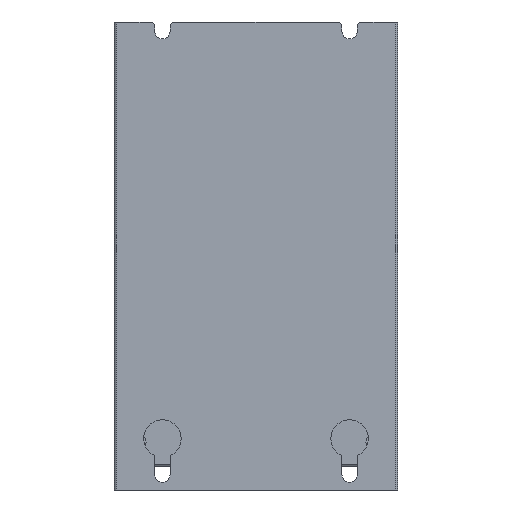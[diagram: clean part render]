
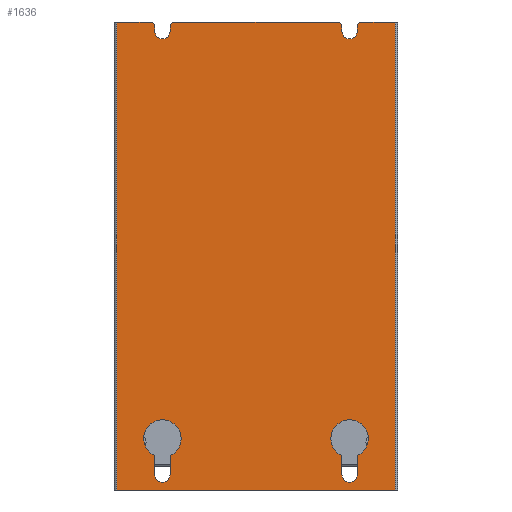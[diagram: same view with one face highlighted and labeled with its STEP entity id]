
A CAD part, front view. The second image highlights one B-rep face of the part: STEP entity #1636.
In plain terms, the highlighted planar face has unit normal (0, -1, 0) as drawn and (0, 0, 1) by its records, which use the part's own axes.
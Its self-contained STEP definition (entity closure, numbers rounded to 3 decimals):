
#35=DIRECTION('',(-1.,0.,0.));
#36=VECTOR('',#35,2.);
#37=CARTESIAN_POINT('',(-96.,-43.25,0.));
#38=LINE('',#37,#36);
#42=CARTESIAN_POINT('',(-96.,-40.,0.));
#43=DIRECTION('',(0.,0.,-1.));
#44=DIRECTION('',(0.,1.,0.));
#45=AXIS2_PLACEMENT_3D('',#42,#43,#44);
#50=DIRECTION('',(1.,0.,0.));
#51=VECTOR('',#50,2.);
#52=CARTESIAN_POINT('',(-98.,-36.75,0.));
#53=LINE('',#52,#51);
#57=CARTESIAN_POINT('',(-98.,-34.75,0.));
#58=DIRECTION('',(0.,0.,-1.));
#59=DIRECTION('',(0.,-1.,0.));
#60=AXIS2_PLACEMENT_3D('',#57,#58,#59);
#65=DIRECTION('',(0.,1.,0.));
#66=VECTOR('',#65,69.5);
#67=CARTESIAN_POINT('',(-100.,-34.75,0.));
#68=LINE('',#67,#66);
#72=CARTESIAN_POINT('',(-98.,34.75,0.));
#73=DIRECTION('',(0.,0.,-1.));
#74=DIRECTION('',(-1.,0.,0.));
#75=AXIS2_PLACEMENT_3D('',#72,#73,#74);
#80=DIRECTION('',(-1.,0.,0.));
#81=VECTOR('',#80,2.);
#82=CARTESIAN_POINT('',(-96.,36.75,0.));
#83=LINE('',#82,#81);
#87=CARTESIAN_POINT('',(-96.,40.,0.));
#88=DIRECTION('',(0.,0.,-1.));
#89=DIRECTION('',(0.,1.,0.));
#90=AXIS2_PLACEMENT_3D('',#87,#88,#89);
#95=DIRECTION('',(1.,0.,0.));
#96=VECTOR('',#95,2.);
#97=CARTESIAN_POINT('',(-98.,43.25,0.));
#98=LINE('',#97,#96);
#102=CARTESIAN_POINT('',(-98.,45.25,0.));
#103=DIRECTION('',(0.,0.,-1.));
#104=DIRECTION('',(0.,-1.,0.));
#105=AXIS2_PLACEMENT_3D('',#102,#103,#104);
#110=DIRECTION('',(0.,1.,0.));
#111=VECTOR('',#110,14.25);
#112=CARTESIAN_POINT('',(-100.,45.25,0.));
#113=LINE('',#112,#111);
#117=DIRECTION('',(0.,1.,0.));
#118=VECTOR('',#117,14.25);
#119=CARTESIAN_POINT('',(-100.,-59.5,0.));
#120=LINE('',#119,#118);
#124=CARTESIAN_POINT('',(-98.,-45.25,0.));
#125=DIRECTION('',(0.,0.,-1.));
#126=DIRECTION('',(-1.,0.,0.));
#127=AXIS2_PLACEMENT_3D('',#124,#125,#126);
#132=CARTESIAN_POINT('',(78.,-40.,0.));
#133=DIRECTION('',(0.,0.,-1.));
#134=DIRECTION('',(0.914,-0.406,0.));
#135=AXIS2_PLACEMENT_3D('',#132,#133,#134);
#140=DIRECTION('',(-1.,0.,0.));
#141=VECTOR('',#140,8.14);
#142=CARTESIAN_POINT('',(93.45,-43.25,0.));
#143=LINE('',#142,#141);
#147=CARTESIAN_POINT('',(93.45,-40.,0.));
#148=DIRECTION('',(0.,0.,-1.));
#149=DIRECTION('',(0.,1.,0.));
#150=AXIS2_PLACEMENT_3D('',#147,#148,#149);
#155=DIRECTION('',(1.,0.,0.));
#156=VECTOR('',#155,8.14);
#157=CARTESIAN_POINT('',(85.31,-36.75,0.));
#158=LINE('',#157,#156);
#162=DIRECTION('',(1.,0.,0.));
#163=VECTOR('',#162,8.14);
#164=CARTESIAN_POINT('',(85.31,43.25,0.));
#165=LINE('',#164,#163);
#169=CARTESIAN_POINT('',(78.,40.,0.));
#170=DIRECTION('',(0.,0.,-1.));
#171=DIRECTION('',(0.914,-0.406,0.));
#172=AXIS2_PLACEMENT_3D('',#169,#170,#171);
#177=DIRECTION('',(-1.,0.,0.));
#178=VECTOR('',#177,8.14);
#179=CARTESIAN_POINT('',(93.45,36.75,0.));
#180=LINE('',#179,#178);
#184=CARTESIAN_POINT('',(93.45,40.,0.));
#185=DIRECTION('',(0.,0.,-1.));
#186=DIRECTION('',(0.,1.,0.));
#187=AXIS2_PLACEMENT_3D('',#184,#185,#186);
#262=DIRECTION('',(-1.,0.,0.));
#263=VECTOR('',#262,200.);
#264=CARTESIAN_POINT('',(100.,-59.5,0.));
#265=LINE('',#264,#263);
#313=DIRECTION('',(0.,1.,0.));
#314=VECTOR('',#313,119.);
#315=CARTESIAN_POINT('',(100.,-59.5,0.));
#316=LINE('',#315,#314);
#320=DIRECTION('',(1.,0.,0.));
#321=VECTOR('',#320,200.);
#322=CARTESIAN_POINT('',(-100.,59.5,0.));
#323=LINE('',#322,#321);
#1466=CARTESIAN_POINT('',(-100.,59.5,0.));
#1467=CARTESIAN_POINT('',(100.,59.5,0.));
#1468=VERTEX_POINT('',#1466);
#1469=VERTEX_POINT('',#1467);
#1474=CARTESIAN_POINT('',(100.,-59.5,0.));
#1475=CARTESIAN_POINT('',(-100.,-59.5,0.));
#1476=VERTEX_POINT('',#1474);
#1477=VERTEX_POINT('',#1475);
#1482=CARTESIAN_POINT('',(-96.,-43.25,0.));
#1483=CARTESIAN_POINT('',(-98.,-43.25,0.));
#1484=VERTEX_POINT('',#1482);
#1485=VERTEX_POINT('',#1483);
#1486=CARTESIAN_POINT('',(-100.,-45.25,0.));
#1487=VERTEX_POINT('',#1486);
#1488=CARTESIAN_POINT('',(-98.,-36.75,0.));
#1489=CARTESIAN_POINT('',(-100.,-34.75,0.));
#1490=VERTEX_POINT('',#1488);
#1491=VERTEX_POINT('',#1489);
#1492=CARTESIAN_POINT('',(-96.,-36.75,0.));
#1493=VERTEX_POINT('',#1492);
#1494=CARTESIAN_POINT('',(-96.,43.25,0.));
#1495=CARTESIAN_POINT('',(-96.,36.75,0.));
#1496=VERTEX_POINT('',#1494);
#1497=VERTEX_POINT('',#1495);
#1498=CARTESIAN_POINT('',(-98.,36.75,0.));
#1499=VERTEX_POINT('',#1498);
#1500=CARTESIAN_POINT('',(-100.,34.75,0.));
#1501=VERTEX_POINT('',#1500);
#1502=CARTESIAN_POINT('',(-98.,43.25,0.));
#1503=CARTESIAN_POINT('',(-100.,45.25,0.));
#1504=VERTEX_POINT('',#1502);
#1505=VERTEX_POINT('',#1503);
#1530=CARTESIAN_POINT('',(85.31,-43.25,0.));
#1531=CARTESIAN_POINT('',(85.31,-36.75,0.));
#1532=VERTEX_POINT('',#1530);
#1533=VERTEX_POINT('',#1531);
#1534=CARTESIAN_POINT('',(93.45,-36.75,0.));
#1535=VERTEX_POINT('',#1534);
#1536=CARTESIAN_POINT('',(93.45,-43.25,0.));
#1537=VERTEX_POINT('',#1536);
#1538=CARTESIAN_POINT('',(85.31,43.25,0.));
#1539=CARTESIAN_POINT('',(93.45,43.25,0.));
#1540=VERTEX_POINT('',#1538);
#1541=VERTEX_POINT('',#1539);
#1542=CARTESIAN_POINT('',(93.45,36.75,0.));
#1543=VERTEX_POINT('',#1542);
#1544=CARTESIAN_POINT('',(85.31,36.75,0.));
#1545=VERTEX_POINT('',#1544);
#1578=CARTESIAN_POINT('',(-100.,-60.5,0.));
#1579=DIRECTION('',(0.,0.,1.));
#1580=DIRECTION('',(1.,0.,0.));
#1581=AXIS2_PLACEMENT_3D('',#1578,#1579,#1580);
#1582=PLANE('',#1581);
#1584=ORIENTED_EDGE('',*,*,#1583,.F.);
#1586=ORIENTED_EDGE('',*,*,#1585,.F.);
#1588=ORIENTED_EDGE('',*,*,#1587,.F.);
#1590=ORIENTED_EDGE('',*,*,#1589,.T.);
#1592=ORIENTED_EDGE('',*,*,#1591,.T.);
#1594=ORIENTED_EDGE('',*,*,#1593,.T.);
#1596=ORIENTED_EDGE('',*,*,#1595,.F.);
#1598=ORIENTED_EDGE('',*,*,#1597,.F.);
#1599=ORIENTED_EDGE('',*,*,#1567,.F.);
#1601=ORIENTED_EDGE('',*,*,#1600,.T.);
#1603=ORIENTED_EDGE('',*,*,#1602,.T.);
#1605=ORIENTED_EDGE('',*,*,#1604,.T.);
#1607=ORIENTED_EDGE('',*,*,#1606,.F.);
#1609=ORIENTED_EDGE('',*,*,#1608,.T.);
#1611=ORIENTED_EDGE('',*,*,#1610,.T.);
#1613=ORIENTED_EDGE('',*,*,#1612,.T.);
#1614=EDGE_LOOP('',(#1584,#1586,#1588,#1590,#1592,#1594,#1596,#1598,#1599,#1601,
#1603,#1605,#1607,#1609,#1611,#1613));
#1615=FACE_OUTER_BOUND('',#1614,.F.);
#1617=ORIENTED_EDGE('',*,*,#1616,.F.);
#1619=ORIENTED_EDGE('',*,*,#1618,.F.);
#1621=ORIENTED_EDGE('',*,*,#1620,.F.);
#1623=ORIENTED_EDGE('',*,*,#1622,.F.);
#1624=EDGE_LOOP('',(#1617,#1619,#1621,#1623));
#1625=FACE_BOUND('',#1624,.F.);
#1627=ORIENTED_EDGE('',*,*,#1626,.F.);
#1629=ORIENTED_EDGE('',*,*,#1628,.F.);
#1631=ORIENTED_EDGE('',*,*,#1630,.F.);
#1633=ORIENTED_EDGE('',*,*,#1632,.F.);
#1634=EDGE_LOOP('',(#1627,#1629,#1631,#1633));
#1635=FACE_BOUND('',#1634,.F.);
#46=CIRCLE('',#45,3.25);
#61=CIRCLE('',#60,2.);
#76=CIRCLE('',#75,2.);
#91=CIRCLE('',#90,3.25);
#106=CIRCLE('',#105,2.);
#128=CIRCLE('',#127,2.);
#136=CIRCLE('',#135,8.);
#151=CIRCLE('',#150,3.25);
#173=CIRCLE('',#172,8.);
#188=CIRCLE('',#187,3.25);
#1567=EDGE_CURVE('',#1504,#1496,#98,.T.);
#1583=EDGE_CURVE('',#1484,#1485,#38,.T.);
#1585=EDGE_CURVE('',#1493,#1484,#46,.T.);
#1587=EDGE_CURVE('',#1490,#1493,#53,.T.);
#1589=EDGE_CURVE('',#1490,#1491,#61,.T.);
#1591=EDGE_CURVE('',#1491,#1501,#68,.T.);
#1593=EDGE_CURVE('',#1501,#1499,#76,.T.);
#1595=EDGE_CURVE('',#1497,#1499,#83,.T.);
#1597=EDGE_CURVE('',#1496,#1497,#91,.T.);
#1600=EDGE_CURVE('',#1504,#1505,#106,.T.);
#1602=EDGE_CURVE('',#1505,#1468,#113,.T.);
#1604=EDGE_CURVE('',#1468,#1469,#323,.T.);
#1606=EDGE_CURVE('',#1476,#1469,#316,.T.);
#1608=EDGE_CURVE('',#1476,#1477,#265,.T.);
#1610=EDGE_CURVE('',#1477,#1487,#120,.T.);
#1612=EDGE_CURVE('',#1487,#1485,#128,.T.);
#1616=EDGE_CURVE('',#1532,#1533,#136,.T.);
#1618=EDGE_CURVE('',#1537,#1532,#143,.T.);
#1620=EDGE_CURVE('',#1535,#1537,#151,.T.);
#1622=EDGE_CURVE('',#1533,#1535,#158,.T.);
#1626=EDGE_CURVE('',#1540,#1541,#165,.T.);
#1628=EDGE_CURVE('',#1545,#1540,#173,.T.);
#1630=EDGE_CURVE('',#1543,#1545,#180,.T.);
#1632=EDGE_CURVE('',#1541,#1543,#188,.T.);
#1636=ADVANCED_FACE('',(#1615,#1625,#1635),#1582,.T.);
